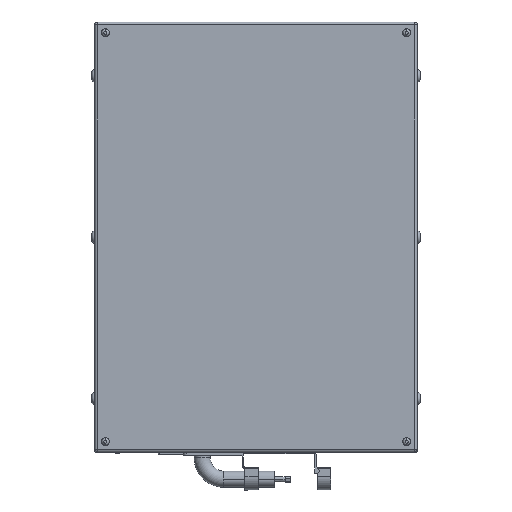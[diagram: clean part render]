
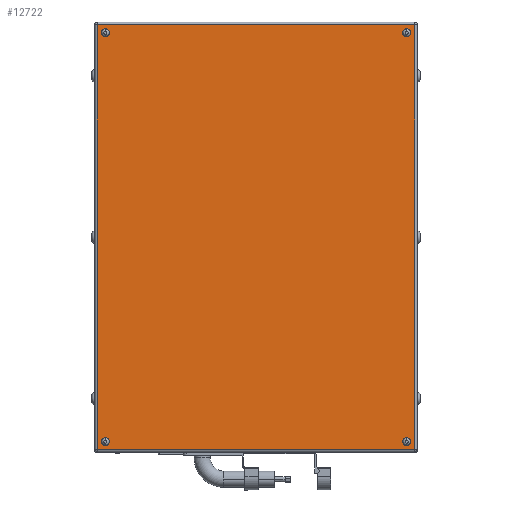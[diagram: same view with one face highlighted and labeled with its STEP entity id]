
A CAD part, front view. The second image highlights one B-rep face of the part: STEP entity #12722.
In plain terms, the highlighted planar face has unit normal (0, -1, 0).
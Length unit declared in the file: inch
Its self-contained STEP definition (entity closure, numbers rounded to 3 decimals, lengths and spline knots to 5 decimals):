
#36 = CARTESIAN_POINT ( 'NONE',  ( -14.734, -12., -19.734 ) ) ;
#521 = CARTESIAN_POINT ( 'NONE',  ( 14., -12., 19. ) ) ;
#554 = DIRECTION ( 'NONE',  ( 0., -1., 0. ) ) ;
#604 = EDGE_CURVE ( 'NONE', #2692, #13429, #13494, .T. ) ;
#692 = PLANE ( 'NONE',  #16133 ) ;
#793 = EDGE_CURVE ( 'NONE', #15834, #16971, #11711, .T. ) ;
#1168 = AXIS2_PLACEMENT_3D ( 'NONE', #12665, #5464, #18814 ) ;
#1336 = EDGE_LOOP ( 'NONE', ( #8537, #5824 ) ) ;
#1994 = VERTEX_POINT ( 'NONE', #2470 ) ;
#2082 = DIRECTION ( 'NONE',  ( 1., 0., 0. ) ) ;
#2470 = CARTESIAN_POINT ( 'NONE',  ( 14.734, -12., 19.734 ) ) ;
#2684 = ORIENTED_EDGE ( 'NONE', *, *, #8289, .F. ) ;
#2692 = VERTEX_POINT ( 'NONE', #19806 ) ;
#2992 = CIRCLE ( 'NONE', #15481, 0.37402 ) ;
#3071 = VERTEX_POINT ( 'NONE', #5812 ) ;
#3342 = ORIENTED_EDGE ( 'NONE', *, *, #12962, .F. ) ;
#3442 = CIRCLE ( 'NONE', #1168, 0.37402 ) ;
#3994 = CARTESIAN_POINT ( 'NONE',  ( -14.734, -12., -19.8 ) ) ;
#4013 = CARTESIAN_POINT ( 'NONE',  ( 14., -12., 18.62598 ) ) ;
#4339 = DIRECTION ( 'NONE',  ( 0., 0., -1. ) ) ;
#4613 = VERTEX_POINT ( 'NONE', #4013 ) ;
#4871 = AXIS2_PLACEMENT_3D ( 'NONE', #9512, #6627, #15542 ) ;
#4906 = DIRECTION ( 'NONE',  ( -1., 0., 0. ) ) ;
#4908 = VECTOR ( 'NONE', #17556, 39.37008 ) ;
#4928 = CARTESIAN_POINT ( 'NONE',  ( 14.8, -12., -19.734 ) ) ;
#5011 = ORIENTED_EDGE ( 'NONE', *, *, #8723, .T. ) ;
#5223 = LINE ( 'NONE', #4928, #6057 ) ;
#5464 = DIRECTION ( 'NONE',  ( 0., -1., 0. ) ) ;
#5646 = DIRECTION ( 'NONE',  ( 0., 0., -1. ) ) ;
#5812 = CARTESIAN_POINT ( 'NONE',  ( -14., -12., 18.62598 ) ) ;
#5824 = ORIENTED_EDGE ( 'NONE', *, *, #10350, .F. ) ;
#6057 = VECTOR ( 'NONE', #2082, 39.37008 ) ;
#6261 = EDGE_LOOP ( 'NONE', ( #9833, #5011, #15753, #8005 ) ) ;
#6284 = EDGE_CURVE ( 'NONE', #16971, #16741, #5223, .T. ) ;
#6384 = CARTESIAN_POINT ( 'NONE',  ( -14., -12., 19. ) ) ;
#6627 = DIRECTION ( 'NONE',  ( 0., -1., 0. ) ) ;
#6777 = EDGE_LOOP ( 'NONE', ( #14695, #9296 ) ) ;
#6861 = DIRECTION ( 'NONE',  ( 0., 0., -1. ) ) ;
#7729 = CARTESIAN_POINT ( 'NONE',  ( -14., -12., 19.37402 ) ) ;
#7943 = CARTESIAN_POINT ( 'NONE',  ( -14., -12., -19.37402 ) ) ;
#7986 = FACE_BOUND ( 'NONE', #14901, .T. ) ;
#8005 = ORIENTED_EDGE ( 'NONE', *, *, #6284, .T. ) ;
#8071 = EDGE_CURVE ( 'NONE', #16741, #1994, #19898, .T. ) ;
#8188 = FACE_BOUND ( 'NONE', #19463, .T. ) ;
#8203 = CARTESIAN_POINT ( 'NONE',  ( 14., -12., 19. ) ) ;
#8289 = EDGE_CURVE ( 'NONE', #15491, #14338, #15875, .T. ) ;
#8370 = CARTESIAN_POINT ( 'NONE',  ( -14.734, -12., 19.734 ) ) ;
#8537 = ORIENTED_EDGE ( 'NONE', *, *, #604, .F. ) ;
#8723 = EDGE_CURVE ( 'NONE', #1994, #15834, #9220, .T. ) ;
#8767 = CARTESIAN_POINT ( 'NONE',  ( 0., -12., 0. ) ) ;
#9007 = VERTEX_POINT ( 'NONE', #7729 ) ;
#9220 = LINE ( 'NONE', #12534, #12384 ) ;
#9296 = ORIENTED_EDGE ( 'NONE', *, *, #16696, .F. ) ;
#9512 = CARTESIAN_POINT ( 'NONE',  ( 14., -12., -19. ) ) ;
#9569 = DIRECTION ( 'NONE',  ( 0., 0., -1. ) ) ;
#9655 = AXIS2_PLACEMENT_3D ( 'NONE', #521, #11066, #12609 ) ;
#9775 = DIRECTION ( 'NONE',  ( 0., -1., 0. ) ) ;
#9833 = ORIENTED_EDGE ( 'NONE', *, *, #8071, .T. ) ;
#10350 = EDGE_CURVE ( 'NONE', #13429, #2692, #3442, .T. ) ;
#10538 = DIRECTION ( 'NONE',  ( 0., -1., 0. ) ) ;
#11041 = FACE_BOUND ( 'NONE', #6777, .T. ) ;
#11066 = DIRECTION ( 'NONE',  ( 0., -1., 0. ) ) ;
#11249 = AXIS2_PLACEMENT_3D ( 'NONE', #8203, #9775, #9569 ) ;
#11297 = CARTESIAN_POINT ( 'NONE',  ( -14., -12., 19. ) ) ;
#11711 = LINE ( 'NONE', #3994, #4908 ) ;
#11967 = DIRECTION ( 'NONE',  ( 0., -1., 0. ) ) ;
#12272 = CARTESIAN_POINT ( 'NONE',  ( 14., -12., 19.37402 ) ) ;
#12384 = VECTOR ( 'NONE', #4906, 39.37008 ) ;
#12405 = CARTESIAN_POINT ( 'NONE',  ( 14.734, -12., -19.734 ) ) ;
#12534 = CARTESIAN_POINT ( 'NONE',  ( -14.8, -12., 19.734 ) ) ;
#12609 = DIRECTION ( 'NONE',  ( 0., 0., -1. ) ) ;
#12665 = CARTESIAN_POINT ( 'NONE',  ( 14., -12., -19. ) ) ;
#12722 = ADVANCED_FACE ( 'NONE', ( #11041, #7986, #15777, #8188, #14456 ), #692, .T. ) ;
#12888 = EDGE_CURVE ( 'NONE', #9007, #3071, #2992, .T. ) ;
#12962 = EDGE_CURVE ( 'NONE', #14338, #15491, #15798, .T. ) ;
#13237 = DIRECTION ( 'NONE',  ( 0., -1., 0. ) ) ;
#13429 = VERTEX_POINT ( 'NONE', #15295 ) ;
#13494 = CIRCLE ( 'NONE', #4871, 0.37402 ) ;
#14122 = DIRECTION ( 'NONE',  ( 0., -1., 0. ) ) ;
#14162 = AXIS2_PLACEMENT_3D ( 'NONE', #14433, #14122, #6861 ) ;
#14338 = VERTEX_POINT ( 'NONE', #7943 ) ;
#14433 = CARTESIAN_POINT ( 'NONE',  ( -14., -12., -19. ) ) ;
#14456 = FACE_OUTER_BOUND ( 'NONE', #6261, .T. ) ;
#14695 = ORIENTED_EDGE ( 'NONE', *, *, #17115, .F. ) ;
#14722 = CARTESIAN_POINT ( 'NONE',  ( -14., -12., -19. ) ) ;
#14842 = ORIENTED_EDGE ( 'NONE', *, *, #18131, .F. ) ;
#14901 = EDGE_LOOP ( 'NONE', ( #17928, #14842 ) ) ;
#15250 = VERTEX_POINT ( 'NONE', #12272 ) ;
#15295 = CARTESIAN_POINT ( 'NONE',  ( 14., -12., -19.37402 ) ) ;
#15481 = AXIS2_PLACEMENT_3D ( 'NONE', #6384, #10538, #4339 ) ;
#15491 = VERTEX_POINT ( 'NONE', #19762 ) ;
#15542 = DIRECTION ( 'NONE',  ( 0., 0., -1. ) ) ;
#15753 = ORIENTED_EDGE ( 'NONE', *, *, #793, .T. ) ;
#15777 = FACE_BOUND ( 'NONE', #1336, .T. ) ;
#15798 = CIRCLE ( 'NONE', #14162, 0.37402 ) ;
#15834 = VERTEX_POINT ( 'NONE', #8370 ) ;
#15875 = CIRCLE ( 'NONE', #16846, 0.37402 ) ;
#15944 = DIRECTION ( 'NONE',  ( 0., 0., -1. ) ) ;
#16007 = CIRCLE ( 'NONE', #19550, 0.37402 ) ;
#16133 = AXIS2_PLACEMENT_3D ( 'NONE', #8767, #11967, #16199 ) ;
#16199 = DIRECTION ( 'NONE',  ( 0., 0., -1. ) ) ;
#16696 = EDGE_CURVE ( 'NONE', #4613, #15250, #17715, .T. ) ;
#16741 = VERTEX_POINT ( 'NONE', #12405 ) ;
#16846 = AXIS2_PLACEMENT_3D ( 'NONE', #14722, #13237, #5646 ) ;
#16971 = VERTEX_POINT ( 'NONE', #36 ) ;
#17115 = EDGE_CURVE ( 'NONE', #15250, #4613, #18332, .T. ) ;
#17177 = CARTESIAN_POINT ( 'NONE',  ( 14.734, -12., 19.8 ) ) ;
#17556 = DIRECTION ( 'NONE',  ( 0., 0., -1. ) ) ;
#17667 = VECTOR ( 'NONE', #18796, 39.37008 ) ;
#17715 = CIRCLE ( 'NONE', #11249, 0.37402 ) ;
#17928 = ORIENTED_EDGE ( 'NONE', *, *, #12888, .F. ) ;
#18131 = EDGE_CURVE ( 'NONE', #3071, #9007, #16007, .T. ) ;
#18332 = CIRCLE ( 'NONE', #9655, 0.37402 ) ;
#18796 = DIRECTION ( 'NONE',  ( 0., 0., 1. ) ) ;
#18814 = DIRECTION ( 'NONE',  ( 0., 0., -1. ) ) ;
#19463 = EDGE_LOOP ( 'NONE', ( #2684, #3342 ) ) ;
#19550 = AXIS2_PLACEMENT_3D ( 'NONE', #11297, #554, #15944 ) ;
#19762 = CARTESIAN_POINT ( 'NONE',  ( -14., -12., -18.62598 ) ) ;
#19806 = CARTESIAN_POINT ( 'NONE',  ( 14., -12., -18.62598 ) ) ;
#19898 = LINE ( 'NONE', #17177, #17667 ) ;
